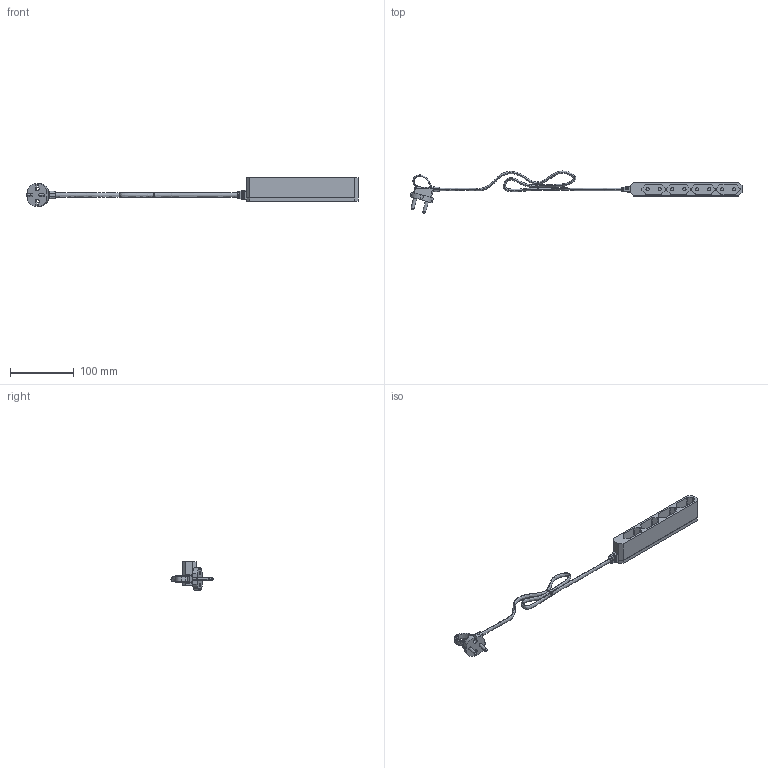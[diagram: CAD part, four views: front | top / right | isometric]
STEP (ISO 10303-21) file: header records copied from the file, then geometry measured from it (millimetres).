
FILE_DESCRIPTION (( 'STEP AP203' ), '1' );
FILE_NAME ('4-fach_HV-Verteiler_24.STEP', '2024-12-04T05:46:42', ( '' ), ( '' ), 'SwSTEP 2.0', 'SolidWorks 2023', '' );
FILE_SCHEMA (( 'CONFIG_CONTROL_DESIGN' ));
Length unit declared in the file: millimetre
Products named in the file (1): 4-fach_HV-Verteiler_24
Bounding box: 521.27 x 66.15 x 45.48 mm (x, y, z)
Volume: 128091.3 mm3; surface area: 45387 mm2
Topology: 1 solids, 1 shells, 333 faces, 892 edges, 572 vertices
Faces by surface type: plane 160, cylinder 119, torus 22, bspline 20, sphere 8, cone 4
Entity records: 12896 total; most frequent: CARTESIAN_POINT 4606, ORIENTED_EDGE 1768, DIRECTION 1688, EDGE_CURVE 884, AXIS2_PLACEMENT_3D 578, VERTEX_POINT 568, LINE 532, VECTOR 532
